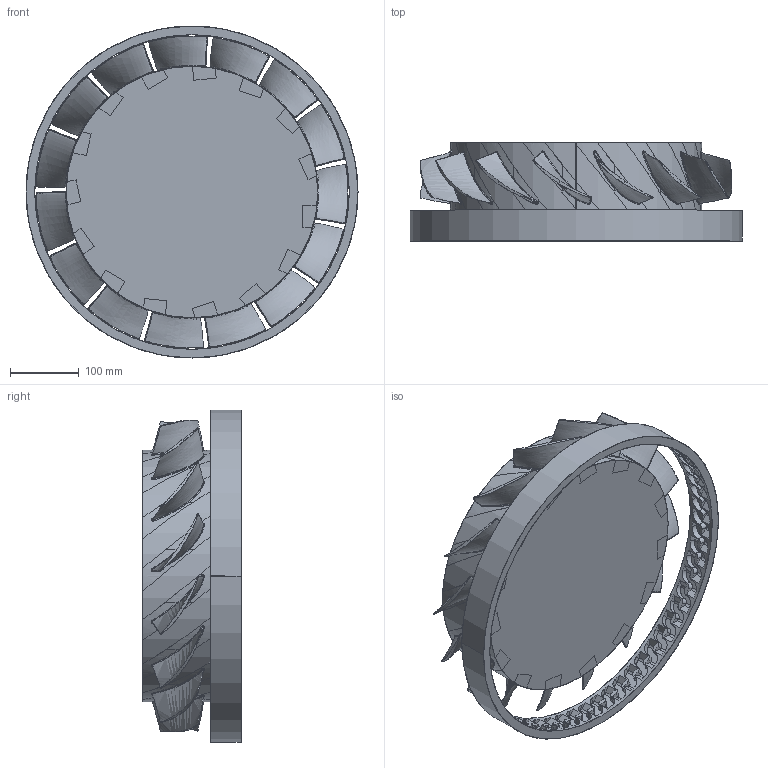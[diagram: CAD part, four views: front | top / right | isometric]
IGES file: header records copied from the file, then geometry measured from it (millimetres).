
Start section: SolidWorks IGES file using analytic representation for surfaces
Global section: file name: H:\Data to be sent to NASA\rotor and S groove.IGS; native system: SolidWorks 2017; preprocessor: SolidWorks 2017; author: Subhra Shankha Koley; date: 210421.155825; units: inch
Bounding box: 482.6 x 142.87 x 482.6 mm (x, y, z)
Surface area: 830344.9 mm2 (no closed solid volume)
Topology: 0 solids, 0 shells, 1010 faces, 20493 edges, 20488 vertices
Faces by surface type: bspline 524, revolution 486
